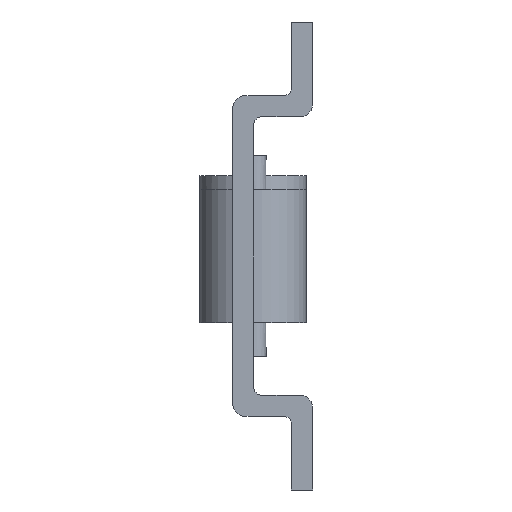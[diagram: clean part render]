
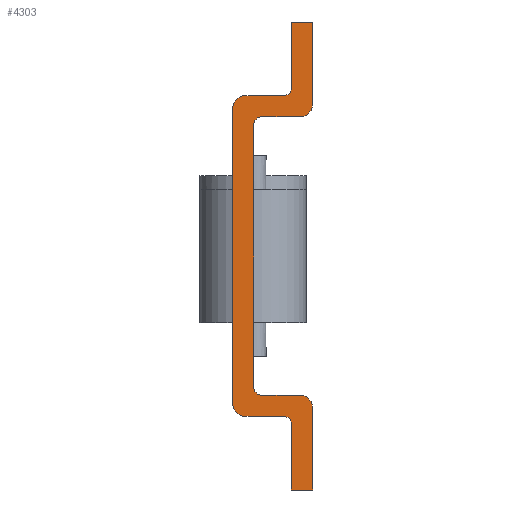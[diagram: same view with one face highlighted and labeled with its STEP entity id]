
A CAD part, left-side view. The second image highlights one B-rep face of the part: STEP entity #4303.
In plain terms, the highlighted planar face has unit normal (-1, 0, 0).
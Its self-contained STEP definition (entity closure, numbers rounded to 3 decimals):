
#217=CARTESIAN_POINT('Line Origine',(0.,-1.6,0.)) ;
#221=CARTESIAN_POINT('Vertex',(0.,-1.6,9.9)) ;
#223=CARTESIAN_POINT('Vertex',(0.,-1.6,-9.9)) ;
#3132=CARTESIAN_POINT('Line Origine',(0.,0.,0.)) ;
#3136=CARTESIAN_POINT('Vertex',(0.,0.,-11.)) ;
#3138=CARTESIAN_POINT('Vertex',(0.,0.,11.)) ;
#4154=CARTESIAN_POINT('Axis2P3D Location',(0.,-5.,11.4)) ;
#4159=CARTESIAN_POINT('Line Origine',(0.,-4.4,15.)) ;
#4163=CARTESIAN_POINT('Vertex',(0.,-4.4,12.5)) ;
#4165=CARTESIAN_POINT('Vertex',(0.,-4.4,17.5)) ;
#4168=CARTESIAN_POINT('Axis2P3D Location',(0.,-3.9,12.5)) ;
#4172=CARTESIAN_POINT('Vertex',(0.,-3.9,12.)) ;
#4175=CARTESIAN_POINT('Line Origine',(0.,-2.45,12.)) ;
#4179=CARTESIAN_POINT('Vertex',(0.,-1.,12.)) ;
#4182=CARTESIAN_POINT('Axis2P3D Location',(0.,-1.,11.)) ;
#4187=CARTESIAN_POINT('Axis2P3D Location',(0.,-1.,-11.)) ;
#4191=CARTESIAN_POINT('Vertex',(0.,-1.,-12.)) ;
#4194=CARTESIAN_POINT('Line Origine',(0.,-2.45,-12.)) ;
#4198=CARTESIAN_POINT('Vertex',(0.,-3.9,-12.)) ;
#4201=CARTESIAN_POINT('Axis2P3D Location',(0.,-3.9,-12.5)) ;
#4205=CARTESIAN_POINT('Vertex',(0.,-4.4,-12.5)) ;
#4208=CARTESIAN_POINT('Line Origine',(0.,-4.4,-15.)) ;
#4212=CARTESIAN_POINT('Vertex',(0.,-4.4,-17.5)) ;
#4215=CARTESIAN_POINT('Line Origine',(0.,-5.2,-17.5)) ;
#4219=CARTESIAN_POINT('Vertex',(0.,-6.,-17.5)) ;
#4222=CARTESIAN_POINT('Line Origine',(0.,-6.,-14.45)) ;
#4226=CARTESIAN_POINT('Vertex',(0.,-6.,-11.4)) ;
#4229=CARTESIAN_POINT('Axis2P3D Location',(0.,-5.,-11.4)) ;
#4233=CARTESIAN_POINT('Vertex',(0.,-5.,-10.4)) ;
#4236=CARTESIAN_POINT('Line Origine',(0.,-3.55,-10.4)) ;
#4240=CARTESIAN_POINT('Vertex',(0.,-2.1,-10.4)) ;
#4243=CARTESIAN_POINT('Axis2P3D Location',(0.,-2.1,-9.9)) ;
#4248=CARTESIAN_POINT('Axis2P3D Location',(0.,-2.1,9.9)) ;
#4252=CARTESIAN_POINT('Vertex',(0.,-2.1,10.4)) ;
#4255=CARTESIAN_POINT('Line Origine',(0.,-3.55,10.4)) ;
#4259=CARTESIAN_POINT('Vertex',(0.,-5.,10.4)) ;
#4262=CARTESIAN_POINT('Axis2P3D Location',(0.,-5.,11.4)) ;
#4266=CARTESIAN_POINT('Vertex',(0.,-6.,11.4)) ;
#4269=CARTESIAN_POINT('Line Origine',(0.,-6.,14.45)) ;
#4273=CARTESIAN_POINT('Vertex',(0.,-6.,17.5)) ;
#4276=CARTESIAN_POINT('Line Origine',(0.,-5.2,17.5)) ;
#218=DIRECTION('Vector Direction',(0.,0.,-1.)) ;
#3133=DIRECTION('Vector Direction',(0.,0.,1.)) ;
#4155=DIRECTION('Axis2P3D Direction',(1.,0.,0.)) ;
#4156=DIRECTION('Axis2P3D XDirection',(0.,0.,-1.)) ;
#4160=DIRECTION('Vector Direction',(0.,0.,1.)) ;
#4169=DIRECTION('Axis2P3D Direction',(1.,0.,0.)) ;
#4176=DIRECTION('Vector Direction',(0.,-1.,0.)) ;
#4183=DIRECTION('Axis2P3D Direction',(1.,0.,0.)) ;
#4188=DIRECTION('Axis2P3D Direction',(1.,0.,0.)) ;
#4195=DIRECTION('Vector Direction',(0.,1.,0.)) ;
#4202=DIRECTION('Axis2P3D Direction',(1.,0.,0.)) ;
#4209=DIRECTION('Vector Direction',(0.,0.,1.)) ;
#4216=DIRECTION('Vector Direction',(0.,1.,0.)) ;
#4223=DIRECTION('Vector Direction',(0.,0.,-1.)) ;
#4230=DIRECTION('Axis2P3D Direction',(1.,0.,0.)) ;
#4237=DIRECTION('Vector Direction',(0.,-1.,0.)) ;
#4244=DIRECTION('Axis2P3D Direction',(1.,0.,0.)) ;
#4249=DIRECTION('Axis2P3D Direction',(1.,0.,0.)) ;
#4256=DIRECTION('Vector Direction',(0.,1.,0.)) ;
#4263=DIRECTION('Axis2P3D Direction',(1.,0.,0.)) ;
#4270=DIRECTION('Vector Direction',(0.,0.,-1.)) ;
#4277=DIRECTION('Vector Direction',(0.,-1.,0.)) ;
#4157=AXIS2_PLACEMENT_3D('Plane Axis2P3D',#4154,#4155,#4156) ;
#4170=AXIS2_PLACEMENT_3D('Circle Axis2P3D',#4168,#4169,$) ;
#4184=AXIS2_PLACEMENT_3D('Circle Axis2P3D',#4182,#4183,$) ;
#4189=AXIS2_PLACEMENT_3D('Circle Axis2P3D',#4187,#4188,$) ;
#4203=AXIS2_PLACEMENT_3D('Circle Axis2P3D',#4201,#4202,$) ;
#4231=AXIS2_PLACEMENT_3D('Circle Axis2P3D',#4229,#4230,$) ;
#4245=AXIS2_PLACEMENT_3D('Circle Axis2P3D',#4243,#4244,$) ;
#4250=AXIS2_PLACEMENT_3D('Circle Axis2P3D',#4248,#4249,$) ;
#4264=AXIS2_PLACEMENT_3D('Circle Axis2P3D',#4262,#4263,$) ;
#4282=ORIENTED_EDGE('',*,*,#4167,.F.) ;
#4283=ORIENTED_EDGE('',*,*,#4174,.T.) ;
#4284=ORIENTED_EDGE('',*,*,#4181,.F.) ;
#4285=ORIENTED_EDGE('',*,*,#4186,.F.) ;
#4286=ORIENTED_EDGE('',*,*,#3140,.F.) ;
#4287=ORIENTED_EDGE('',*,*,#4193,.F.) ;
#4288=ORIENTED_EDGE('',*,*,#4200,.F.) ;
#4289=ORIENTED_EDGE('',*,*,#4207,.T.) ;
#4290=ORIENTED_EDGE('',*,*,#4214,.F.) ;
#4291=ORIENTED_EDGE('',*,*,#4221,.F.) ;
#4292=ORIENTED_EDGE('',*,*,#4228,.F.) ;
#4293=ORIENTED_EDGE('',*,*,#4235,.F.) ;
#4294=ORIENTED_EDGE('',*,*,#4242,.F.) ;
#4295=ORIENTED_EDGE('',*,*,#4247,.T.) ;
#4296=ORIENTED_EDGE('',*,*,#225,.F.) ;
#4297=ORIENTED_EDGE('',*,*,#4254,.T.) ;
#4298=ORIENTED_EDGE('',*,*,#4261,.F.) ;
#4299=ORIENTED_EDGE('',*,*,#4268,.F.) ;
#4300=ORIENTED_EDGE('',*,*,#4275,.F.) ;
#4301=ORIENTED_EDGE('',*,*,#4280,.F.) ;
#219=VECTOR('Line Direction',#218,1.) ;
#3134=VECTOR('Line Direction',#3133,1.) ;
#4161=VECTOR('Line Direction',#4160,1.) ;
#4177=VECTOR('Line Direction',#4176,1.) ;
#4196=VECTOR('Line Direction',#4195,1.) ;
#4210=VECTOR('Line Direction',#4209,1.) ;
#4217=VECTOR('Line Direction',#4216,1.) ;
#4224=VECTOR('Line Direction',#4223,1.) ;
#4238=VECTOR('Line Direction',#4237,1.) ;
#4257=VECTOR('Line Direction',#4256,1.) ;
#4271=VECTOR('Line Direction',#4270,1.) ;
#4278=VECTOR('Line Direction',#4277,1.) ;
#4303=ADVANCED_FACE('88 SCRUL',(#4302),#4158,.F.) ;
#4171=CIRCLE('generated circle',#4170,0.5) ;
#4185=CIRCLE('generated circle',#4184,1.) ;
#4190=CIRCLE('generated circle',#4189,1.) ;
#4204=CIRCLE('generated circle',#4203,0.5) ;
#4232=CIRCLE('generated circle',#4231,1.) ;
#4246=CIRCLE('generated circle',#4245,0.5) ;
#4251=CIRCLE('generated circle',#4250,0.5) ;
#4265=CIRCLE('generated circle',#4264,1.) ;
#225=EDGE_CURVE('',#222,#224,#220,.T.) ;
#3140=EDGE_CURVE('',#3137,#3139,#3135,.T.) ;
#4167=EDGE_CURVE('',#4164,#4166,#4162,.T.) ;
#4174=EDGE_CURVE('',#4164,#4173,#4171,.T.) ;
#4181=EDGE_CURVE('',#4180,#4173,#4178,.T.) ;
#4186=EDGE_CURVE('',#3139,#4180,#4185,.T.) ;
#4193=EDGE_CURVE('',#4192,#3137,#4190,.T.) ;
#4200=EDGE_CURVE('',#4199,#4192,#4197,.T.) ;
#4207=EDGE_CURVE('',#4199,#4206,#4204,.T.) ;
#4214=EDGE_CURVE('',#4213,#4206,#4211,.T.) ;
#4221=EDGE_CURVE('',#4220,#4213,#4218,.T.) ;
#4228=EDGE_CURVE('',#4227,#4220,#4225,.T.) ;
#4235=EDGE_CURVE('',#4234,#4227,#4232,.T.) ;
#4242=EDGE_CURVE('',#4241,#4234,#4239,.T.) ;
#4247=EDGE_CURVE('',#4241,#224,#4246,.T.) ;
#4254=EDGE_CURVE('',#222,#4253,#4251,.T.) ;
#4261=EDGE_CURVE('',#4260,#4253,#4258,.T.) ;
#4268=EDGE_CURVE('',#4267,#4260,#4265,.T.) ;
#4275=EDGE_CURVE('',#4274,#4267,#4272,.T.) ;
#4280=EDGE_CURVE('',#4166,#4274,#4279,.T.) ;
#4281=EDGE_LOOP('',(#4282,#4283,#4284,#4285,#4286,#4287,#4288,#4289,#4290,#4291,#4292,#4293,#4294,#4295,#4296,#4297,#4298,#4299,#4300,#4301)) ;
#4302=FACE_OUTER_BOUND('',#4281,.T.) ;
#220=LINE('Line',#217,#219) ;
#3135=LINE('Line',#3132,#3134) ;
#4162=LINE('Line',#4159,#4161) ;
#4178=LINE('Line',#4175,#4177) ;
#4197=LINE('Line',#4194,#4196) ;
#4211=LINE('Line',#4208,#4210) ;
#4218=LINE('Line',#4215,#4217) ;
#4225=LINE('Line',#4222,#4224) ;
#4239=LINE('Line',#4236,#4238) ;
#4258=LINE('Line',#4255,#4257) ;
#4272=LINE('Line',#4269,#4271) ;
#4279=LINE('Line',#4276,#4278) ;
#4158=PLANE('Plane',#4157) ;
#222=VERTEX_POINT('',#221) ;
#224=VERTEX_POINT('',#223) ;
#3137=VERTEX_POINT('',#3136) ;
#3139=VERTEX_POINT('',#3138) ;
#4164=VERTEX_POINT('',#4163) ;
#4166=VERTEX_POINT('',#4165) ;
#4173=VERTEX_POINT('',#4172) ;
#4180=VERTEX_POINT('',#4179) ;
#4192=VERTEX_POINT('',#4191) ;
#4199=VERTEX_POINT('',#4198) ;
#4206=VERTEX_POINT('',#4205) ;
#4213=VERTEX_POINT('',#4212) ;
#4220=VERTEX_POINT('',#4219) ;
#4227=VERTEX_POINT('',#4226) ;
#4234=VERTEX_POINT('',#4233) ;
#4241=VERTEX_POINT('',#4240) ;
#4253=VERTEX_POINT('',#4252) ;
#4260=VERTEX_POINT('',#4259) ;
#4267=VERTEX_POINT('',#4266) ;
#4274=VERTEX_POINT('',#4273) ;
